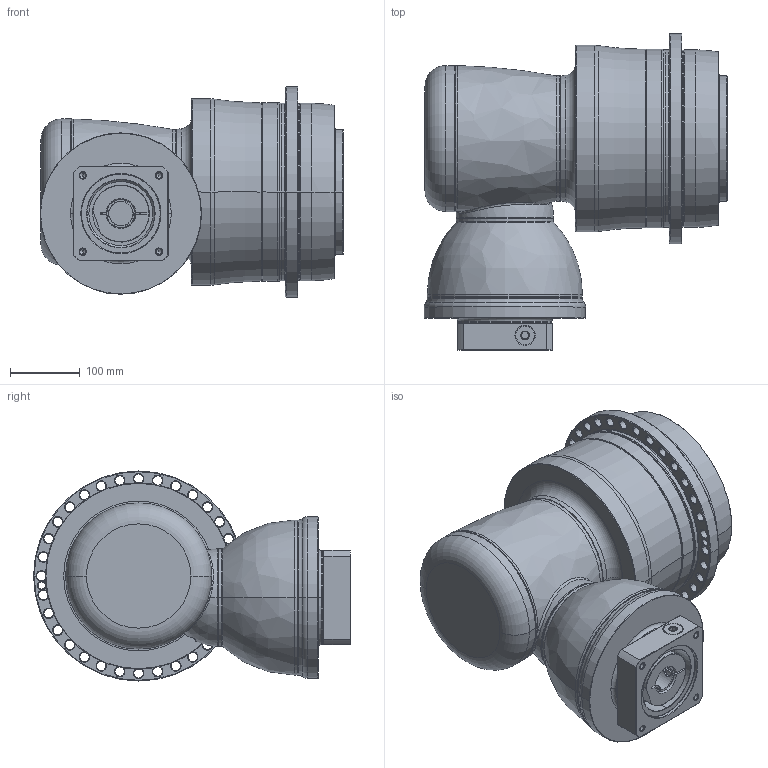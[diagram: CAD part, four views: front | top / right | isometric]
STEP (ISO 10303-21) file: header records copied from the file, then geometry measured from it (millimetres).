
FILE_DESCRIPTION((''),'2;1');
FILE_NAME('APK255_3ST_35-P0409800201_ASM','2018-11-21T',('D00080'),(''),'PRO/ENGINEER BY PARAMETRIC TECHNOLOGY CORPORATION, 2015240','PRO/ENGINEER BY PARAMETRIC TECHNOLOGY CORPORATION, 2015240','');
FILE_SCHEMA(('CONFIG_CONTROL_DESIGN'));
Length unit declared in the file: millimetre
Products named in the file (13): P1008600002; P1832700001; P0278701003; P0359701103; P1211700001; P1315600001; P1007601001; P1318610101; P0503800012; P0912601001; P0409800201; 21711422019; APK255_3ST_35-P0409800201_ASM
Assembly tree (12 placements, depth 2):
  APK255_3ST_35-P0409800201_ASM
    P1008600002
    P1832700001
    P0278701003
    P0359701103
    P1211700001
    P1315600001
    P1007601001
    P1318610101
    P0503800012
    P0912601001
    P0409800201
    21711422019
Bounding box: 436.5 x 455.5 x 302 mm (x, y, z)
Volume: 22589326.6 mm3; surface area: 1412851.1 mm2
Topology: 13 solids, 36 shells, 814 faces, 1897 edges, 1132 vertices
Faces by surface type: cylinder 311, cone 260, plane 122, torus 86, bspline 33, sphere 2
Entity records: 29777 total; most frequent: CARTESIAN_POINT 10499, DIRECTION 4439, ORIENTED_EDGE 3624, AXIS2_PLACEMENT_3D 1901, EDGE_CURVE 1859, VERTEX_POINT 1132, CIRCLE 1083, EDGE_LOOP 959
